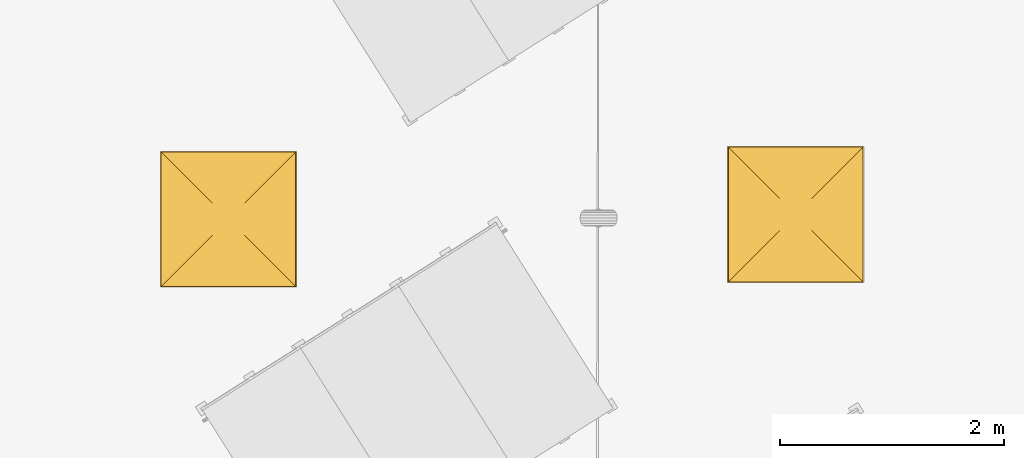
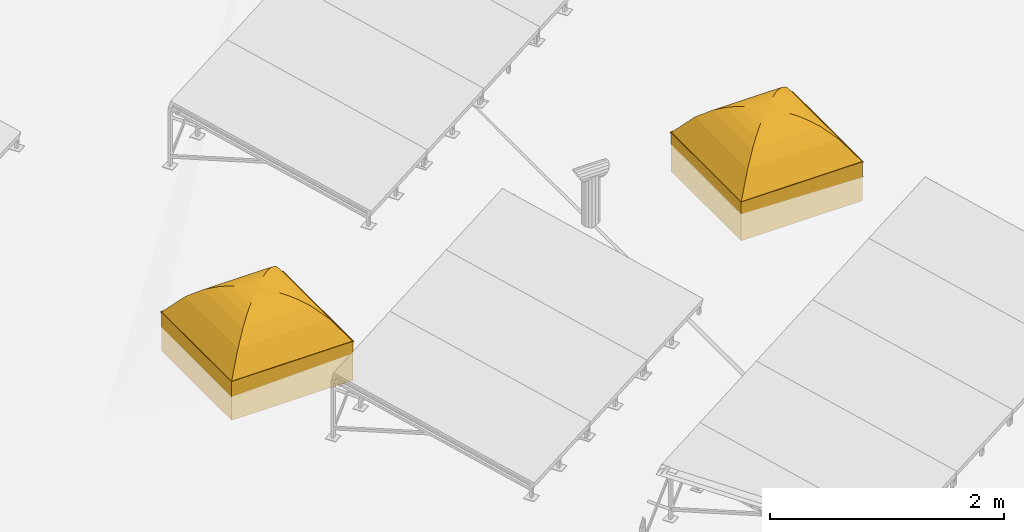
# One storey, part 7 of 9: 2 windows.
"""IFC2X3 building model written with IfcOpenShell, lengths in millimetres."""

from ifc_helpers import new_model, entity, si_unit, converted_unit, derived_unit, money_unit, direction, frame, origin_with_axes, place, context, subcontext, project, spatial, open_shell, faceted_brep, surface_model, source, transform, mapped, type_object, element, save


model = new_model("IFC2X3")

# Units and contexts
model_context = context("Model", 3, precision=0.01, world=origin_with_axes(), true_north=direction((0.0, 1.0)))
body_context = subcontext(model_context, "Body", "Model", "MODEL_VIEW")
ifc_project = project(units=[si_unit("LENGTHUNIT", "METRE", prefix="MILLI"), si_unit("AREAUNIT", "SQUARE_METRE"), si_unit("VOLUMEUNIT", "CUBIC_METRE"), converted_unit("PLANEANGLEUNIT", "DEGREE", entity("IfcPlaneAngleMeasure", 0.0174532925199), si_unit("PLANEANGLEUNIT", "RADIAN"), dimensions=[0, 0, 0, 0, 0, 0, 0]), si_unit("SOLIDANGLEUNIT", "STERADIAN"), money_unit("EUR"), converted_unit("TIMEUNIT", "Year", entity("IfcTimeMeasure", 31556926.0), si_unit("TIMEUNIT", "SECOND"), dimensions=[0, 0, 1, 0, 0, 0, 0]), si_unit("MASSUNIT", "GRAM", prefix="KILO"), si_unit("THERMODYNAMICTEMPERATUREUNIT", "DEGREE_CELSIUS"), si_unit("LUMINOUSINTENSITYUNIT", "LUMEN"), si_unit("ENERGYUNIT", "JOULE", prefix="MEGA"), derived_unit("THERMALCONDUCTANCEUNIT", [(si_unit("POWERUNIT", "WATT"), 1), (si_unit("LENGTHUNIT", "METRE"), -1), (si_unit("THERMODYNAMICTEMPERATUREUNIT", "KELVIN"), -1)]), derived_unit("SPECIFICHEATCAPACITYUNIT", [(si_unit("ENERGYUNIT", "JOULE"), 1), (si_unit("MASSUNIT", "GRAM", prefix="KILO"), -1), (si_unit("THERMODYNAMICTEMPERATUREUNIT", "KELVIN"), -1)]), derived_unit("MASSDENSITYUNIT", [(si_unit("MASSUNIT", "GRAM", prefix="KILO"), 1), (si_unit("VOLUMEUNIT", "CUBIC_METRE"), -1)])], contexts=[model_context])

# Site, building, storey
site_placement = place(None, origin_with_axes())
site = spatial("IfcSite", under=ifc_project, at=site_placement, Name="KIRDE 14, ELVA", CompositionType="ELEMENT")
building_placement = place(site_placement, origin_with_axes())
building = spatial("IfcBuilding", under=site, at=building_placement, Name="PPA ja Päästeameti ühishoone", CompositionType="ELEMENT")
storey_placement = place(building_placement, frame((0.0, 0.0, 7700.0), z_axis=(0.0, 0.0, 1.0), x_axis=(1.0, 0.0, 0.0)))
storey = spatial("IfcBuildingStorey", under=building, at=storey_placement, Name="Katusekorrus", CompositionType="ELEMENT", Elevation=7700.0)

# Windows
window_style = type_object("IfcWindowStyle", Name="Skylight Dome Rect", ConstructionType="NOTDEFINED", OperationType="NOTDEFINED", ParameterTakesPrecedence=False, Sizeable=False)
shared_shape = source(origin_with_axes(), body_context, "Body", "SurfaceModel", [
    faceted_brep([(-588.0, 0.0, -250.0), (-588.0, 12.0, -250.0), (588.0, 12.0, -250.0), (588.0, 0.0, -250.0), (-588.0, 0.0, 0.0), (-588.0, 12.0, 0.0), (588.0, 12.0, 0.0), (588.0, 0.0, 0.0)], [[[0, 1, 2, 3]], [[0, 4, 5, 1]], [[1, 5, 6, 2]], [[3, 2, 6, 7]], [[4, 0, 3, 7]], [[5, 4, 7, 6]]]),
    faceted_brep([(-588.0, 1200.0, 0.0), (-588.0, 1188.0, 0.0), (588.0, 1188.0, 0.0), (588.0, 1200.0, 0.0), (-588.0, 1200.0, -250.0), (-588.0, 1188.0, -250.0), (588.0, 1188.0, -250.0), (588.0, 1200.0, -250.0)], [[[0, 1, 2, 3]], [[0, 4, 5, 1]], [[1, 5, 6, 2]], [[3, 2, 6, 7]], [[4, 0, 3, 7]], [[5, 4, 7, 6]]]),
    faceted_brep([(-600.0, 0.0, -250.0), (-600.0, 1200.0, -250.0), (-588.0, 1200.0, -250.0), (-588.0, 0.0, -250.0), (-600.0, 0.0, 0.0), (-600.0, 1200.0, 0.0), (-588.0, 1200.0, 0.0), (-588.0, 0.0, 0.0)], [[[0, 1, 2, 3]], [[0, 4, 5, 1]], [[1, 5, 6, 2]], [[3, 2, 6, 7]], [[4, 0, 3, 7]], [[5, 4, 7, 6]]]),
    faceted_brep([(588.0, 0.0, -250.0), (588.0, 1200.0, -250.0), (600.0, 1200.0, -250.0), (600.0, 0.0, -250.0), (588.0, 0.0, 0.0), (588.0, 1200.0, 0.0), (600.0, 1200.0, 0.0), (600.0, 0.0, 0.0)], [[[0, 1, 2, 3]], [[0, 4, 5, 1]], [[1, 5, 6, 2]], [[3, 2, 6, 7]], [[4, 0, 3, 7]], [[5, 4, 7, 6]]]),
    faceted_brep([(-600.0, 0.0, 0.0), (600.0, 0.0, 0.0), (600.0, 0.0, 150.0), (-600.0, 0.0, 150.0), (-600.0, 1200.0, 0.0), (600.0, 1200.0, 0.0), (-550.0, 50.0, 0.0), (550.0, 50.0, 0.0), (550.0, 1150.0, 0.0), (-550.0, 1150.0, 0.0), (600.0, 1200.0, 150.0), (-600.0, 1200.0, 150.0), (-550.0, 50.0, 150.0), (-550.0, 1150.0, 150.0), (550.0, 1150.0, 150.0), (550.0, 50.0, 150.0)], [[[0, 1, 2, 3]], [[0, 4, 5, 1], [6, 7, 8, 9]], [[1, 5, 10, 2]], [[3, 2, 10, 11], [12, 13, 14, 15]], [[4, 0, 3, 11]], [[5, 4, 11, 10]], [[7, 6, 12, 15]], [[8, 7, 15, 14]], [[9, 8, 14, 13]], [[6, 9, 13, 12]]]),
    faceted_brep([(-605.0, -5.0, 150.0), (605.0, -5.0, 150.0), (605.0, -5.0, 155.0), (-605.0, -5.0, 155.0), (-605.0, 1205.0, 150.0), (605.0, 1205.0, 150.0), (-590.0, 10.0, 150.0), (590.0, 10.0, 150.0), (590.0, 1190.0, 150.0), (-590.0, 1190.0, 150.0), (605.0, 1205.0, 155.0), (-605.0, 1205.0, 155.0), (-590.0, 10.0, 155.0), (-590.0, 1190.0, 155.0), (590.0, 1190.0, 155.0), (590.0, 10.0, 155.0)], [[[0, 1, 2, 3]], [[0, 4, 5, 1], [6, 7, 8, 9]], [[1, 5, 10, 2]], [[3, 2, 10, 11], [12, 13, 14, 15]], [[4, 0, 3, 11]], [[5, 4, 11, 10]], [[7, 6, 12, 15]], [[8, 7, 15, 14]], [[9, 8, 14, 13]], [[6, 9, 13, 12]]]),
    faceted_brep([(-605.0, -5.0, 155.0), (605.0, -5.0, 155.0), (605.0, -5.0, 160.0), (-605.0, -5.0, 160.0), (-605.0, 1205.0, 155.0), (605.0, 1205.0, 155.0), (-600.0, 0.0, 155.0), (600.0, 0.0, 155.0), (600.0, 1200.0, 155.0), (-600.0, 1200.0, 155.0), (605.0, 1205.0, 160.0), (-605.0, 1205.0, 160.0), (-600.0, 0.0, 160.0), (-600.0, 1200.0, 160.0), (600.0, 1200.0, 160.0), (600.0, 0.0, 160.0)], [[[0, 1, 2, 3]], [[0, 4, 5, 1], [6, 7, 8, 9]], [[1, 5, 10, 2]], [[3, 2, 10, 11], [12, 13, 14, 15]], [[4, 0, 3, 11]], [[5, 4, 11, 10]], [[7, 6, 12, 15]], [[8, 7, 15, 14]], [[9, 8, 14, 13]], [[6, 9, 13, 12]]]),
    surface_model("IfcShellBasedSurfaceModel", [(-600.0, 0.0, 155.0), (450.0, 150.0, 355.784313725), (-450.0, 150.0, 355.784313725), (600.0, 0.0, 155.0), (337.5, 262.5, 456.176470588), (-600.0, 1200.0, 155.0), (450.0, 1050.0, 355.784313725), (-337.5, 262.5, 456.176470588), (337.5, 937.5, 456.176470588), (-450.0, 1050.0, 355.784313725), (600.0, 1200.0, 155.0), (253.125, 346.875, 506.37254902), (253.125, 853.125, 506.37254902), (-337.5, 937.5, 456.176470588), (-253.125, 346.875, 506.37254902), (-253.125, 853.125, 506.37254902), (189.84375, 410.15625, 531.470588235), (189.84375, 789.84375, 531.470588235), (-189.84375, 789.84375, 531.470588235), (-189.84375, 410.15625, 531.470588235), (142.3828125, 457.6171875, 544.019607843), (142.3828125, 742.3828125, 544.019607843), (-142.3828125, 742.3828125, 544.019607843), (-142.3828125, 457.6171875, 544.019607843), (106.787109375, 493.212890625, 550.294117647), (106.787109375, 706.787109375, 550.294117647), (-106.787109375, 706.787109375, 550.294117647), (-106.787109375, 493.212890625, 550.294117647), (80.0903320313, 519.909667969, 553.431372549), (80.0903320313, 680.090332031, 553.431372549), (-80.0903320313, 680.090332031, 553.431372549), (-80.0903320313, 519.909667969, 553.431372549), (60.0677490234, 539.932250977, 555.0), (60.0677490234, 660.067749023, 555.0), (-60.0677490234, 660.067749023, 555.0), (-60.0677490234, 539.932250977, 555.0)], [open_shell([[[0, 1, 2]], [[1, 0, 3]], [[4, 2, 1]], [[2, 5, 0]], [[3, 6, 1]], [[2, 4, 7]], [[1, 8, 4]], [[5, 2, 9]], [[6, 3, 10]], [[8, 1, 6]], [[11, 7, 4]], [[7, 9, 2]], [[12, 4, 8]], [[9, 10, 5]], [[10, 9, 6]], [[6, 13, 8]], [[7, 11, 14]], [[4, 12, 11]], [[9, 7, 13]], [[8, 15, 12]], [[13, 6, 9]], [[15, 8, 13]], [[16, 14, 11]], [[14, 13, 7]], [[17, 11, 12]], [[18, 12, 15]], [[13, 14, 15]], [[14, 16, 19]], [[11, 17, 16]], [[12, 18, 17]], [[15, 19, 18]], [[19, 15, 14]], [[20, 19, 16]], [[21, 16, 17]], [[22, 17, 18]], [[23, 18, 19]], [[19, 20, 23]], [[16, 21, 20]], [[17, 22, 21]], [[18, 23, 22]], [[24, 23, 20]], [[25, 20, 21]], [[26, 21, 22]], [[27, 22, 23]], [[23, 24, 27]], [[20, 25, 24]], [[21, 26, 25]], [[22, 27, 26]], [[28, 27, 24]], [[29, 24, 25]], [[30, 25, 26]], [[31, 26, 27]], [[27, 28, 31]], [[24, 29, 28]], [[25, 30, 29]], [[26, 31, 30]], [[32, 31, 28]], [[33, 28, 29]], [[34, 29, 30]], [[35, 30, 31]], [[31, 32, 35]], [[28, 33, 32]], [[29, 34, 33]], [[30, 35, 34]], [[35, 32, 33, 34]]])]),
])
for number, where, z_axis, x_axis, name in (
    (1, (31050.8736758, 14541.0001335, -22.4821042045), (0.0, 0.0, 1.0), (1.0, 3.98085120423e-10, 0.0), "KA-03"),
    (2, (25992.8438612, 14499.9987914, -101.729833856), (0.0, 0.0, 1.0), (1.0, 3.98085120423e-10, 0.0), "KA-02"),
):
    element("IfcWindow", number, at=place(storey_placement, frame(where, z_axis=z_axis, x_axis=x_axis)), inside=storey, type_object=window_style, Name=name, ObjectType="WINDOW", context=body_context, shape_type="MappedRepresentation", body=[
        mapped(shared_shape, transform((0.0, 0.0, 0.0))),
    ])

save(model, "model.ifc")
